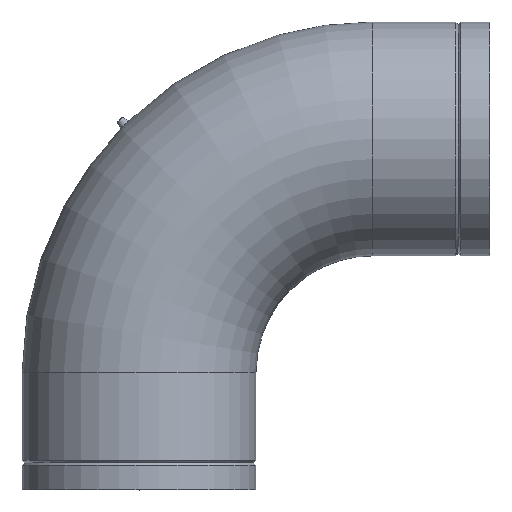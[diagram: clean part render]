
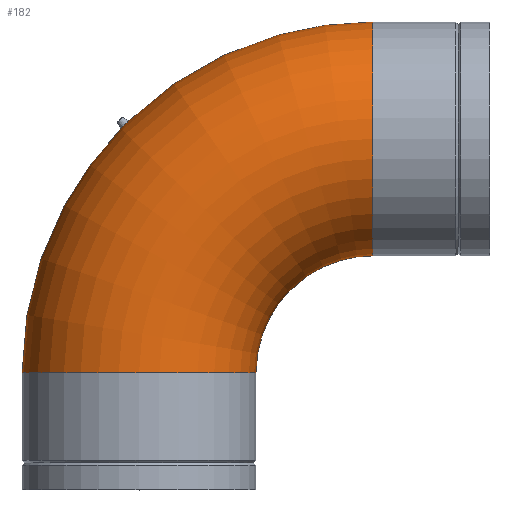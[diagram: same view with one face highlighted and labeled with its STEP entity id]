
A CAD part, top view. The second image highlights one B-rep face of the part: STEP entity #182.
In plain terms, the highlighted toroidal (fillet/blend) face has major radius 200 mm and minor radius 100 mm.
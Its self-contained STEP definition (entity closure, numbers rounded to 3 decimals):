
#14=TOROIDAL_SURFACE($,#212,200.,100.);
#18=B_SPLINE_CURVE_WITH_KNOTS($,3,(#314,#315,#316,#317,#318,#319,#320,#321,
#322,#323,#324,#325,#326,#327,#328,#329,#330,#331,#332,#333,#334,#335,#336,
#337,#338,#339,#340,#341,#342,#343,#344,#345,#346,#347,#348,#349,#350,#351,
#352,#353,#354,#355,#356,#357,#358,#359),.UNSPECIFIED.,.T.,.F.,(4,2,2,2,
2,2,2,2,2,2,2,2,2,2,2,2,2,2,2,2,2,2,4),(-3.009,-2.882,
-2.747,-2.584,-2.41,-2.321,
-2.255,-2.189,-2.098,-1.926,
-1.74,-1.549,-1.367,-1.195,
-1.035,-0.886,-0.803,-0.739,
-0.67,-0.568,-0.38,-0.192,
0.),.UNSPECIFIED.);
#33=FACE_BOUND($,#75,.T.);
#34=FACE_BOUND($,#76,.T.);
#52=FACE_OUTER_BOUND($,#74,.T.);
#74=EDGE_LOOP($,(#153));
#75=EDGE_LOOP($,(#154));
#76=EDGE_LOOP($,(#155));
#96=CIRCLE($,#205,100.);
#100=CIRCLE($,#213,100.);
#111=VERTEX_POINT($,#308);
#113=VERTEX_POINT($,#313);
#116=VERTEX_POINT($,#367);
#127=EDGE_CURVE($,#111,#111,#96,.T.);
#129=EDGE_CURVE($,#113,#113,#18,.T.);
#132=EDGE_CURVE($,#116,#116,#100,.T.);
#153=ORIENTED_EDGE($,*,*,#127,.F.);
#154=ORIENTED_EDGE($,*,*,#132,.T.);
#155=ORIENTED_EDGE($,*,*,#129,.T.);
#182=ADVANCED_FACE($,(#52,#33,#34),#14,.T.);
#205=AXIS2_PLACEMENT_3D($,#309,#251,#252);
#212=AXIS2_PLACEMENT_3D($,#366,#265,#266);
#213=AXIS2_PLACEMENT_3D($,#368,#267,#268);
#251=DIRECTION('center_axis',(0.,-1.,0.));
#252=DIRECTION('ref_axis',(1.,0.,0.));
#265=DIRECTION('center_axis',(0.,0.,-1.));
#266=DIRECTION('ref_axis',(-1.,0.,0.));
#267=DIRECTION('center_axis',(-1.,0.,0.));
#268=DIRECTION('ref_axis',(0.,-1.,0.));
#308=CARTESIAN_POINT('',(-100.,100.,0.));
#309=CARTESIAN_POINT('Origin',(0.,100.,0.));
#313=CARTESIAN_POINT('',(-8.734,315.477,0.));
#314=CARTESIAN_POINT('Ctrl Pts',(-8.734,315.477,0.));
#315=CARTESIAN_POINT('Ctrl Pts',(-8.734,315.477,0.424));
#316=CARTESIAN_POINT('Ctrl Pts',(-8.772,315.436,0.845));
#317=CARTESIAN_POINT('Ctrl Pts',(-8.929,315.269,1.691));
#318=CARTESIAN_POINT('Ctrl Pts',(-9.051,315.139,2.109));
#319=CARTESIAN_POINT('Ctrl Pts',(-9.407,314.763,2.96));
#320=CARTESIAN_POINT('Ctrl Pts',(-9.655,314.502,3.373));
#321=CARTESIAN_POINT('Ctrl Pts',(-10.258,313.874,4.083));
#322=CARTESIAN_POINT('Ctrl Pts',(-10.614,313.506,4.365));
#323=CARTESIAN_POINT('Ctrl Pts',(-11.196,312.913,4.64));
#324=CARTESIAN_POINT('Ctrl Pts',(-11.399,312.707,4.707));
#325=CARTESIAN_POINT('Ctrl Pts',(-11.759,312.344,4.776));
#326=CARTESIAN_POINT('Ctrl Pts',(-11.914,312.188,4.79));
#327=CARTESIAN_POINT('Ctrl Pts',(-12.226,311.876,4.787));
#328=CARTESIAN_POINT('Ctrl Pts',(-12.381,311.721,4.771));
#329=CARTESIAN_POINT('Ctrl Pts',(-12.748,311.358,4.695));
#330=CARTESIAN_POINT('Ctrl Pts',(-12.957,311.152,4.624));
#331=CARTESIAN_POINT('Ctrl Pts',(-13.548,310.574,4.336));
#332=CARTESIAN_POINT('Ctrl Pts',(-13.91,310.223,4.05));
#333=CARTESIAN_POINT('Ctrl Pts',(-14.572,309.588,3.285));
#334=CARTESIAN_POINT('Ctrl Pts',(-14.858,309.317,2.798));
#335=CARTESIAN_POINT('Ctrl Pts',(-15.286,308.913,1.689));
#336=CARTESIAN_POINT('Ctrl Pts',(-15.419,308.788,1.074));
#337=CARTESIAN_POINT('Ctrl Pts',(-15.503,308.709,-0.164));
#338=CARTESIAN_POINT('Ctrl Pts',(-15.459,308.75,-0.776));
#339=CARTESIAN_POINT('Ctrl Pts',(-15.216,308.979,-1.907));
#340=CARTESIAN_POINT('Ctrl Pts',(-15.028,309.156,-2.422));
#341=CARTESIAN_POINT('Ctrl Pts',(-14.548,309.612,-3.306));
#342=CARTESIAN_POINT('Ctrl Pts',(-14.266,309.881,-3.676));
#343=CARTESIAN_POINT('Ctrl Pts',(-13.651,310.475,-4.253));
#344=CARTESIAN_POINT('Ctrl Pts',(-13.325,310.791,-4.466));
#345=CARTESIAN_POINT('Ctrl Pts',(-12.795,311.311,-4.679));
#346=CARTESIAN_POINT('Ctrl Pts',(-12.604,311.501,-4.732));
#347=CARTESIAN_POINT('Ctrl Pts',(-12.258,311.844,-4.784));
#348=CARTESIAN_POINT('Ctrl Pts',(-12.105,311.997,-4.793));
#349=CARTESIAN_POINT('Ctrl Pts',(-11.79,312.312,-4.78));
#350=CARTESIAN_POINT('Ctrl Pts',(-11.628,312.475,-4.756));
#351=CARTESIAN_POINT('Ctrl Pts',(-11.234,312.874,-4.657));
#352=CARTESIAN_POINT('Ctrl Pts',(-11.005,313.107,-4.563));
#353=CARTESIAN_POINT('Ctrl Pts',(-10.382,313.746,-4.197));
#354=CARTESIAN_POINT('Ctrl Pts',(-10.016,314.125,-3.848));
#355=CARTESIAN_POINT('Ctrl Pts',(-9.402,314.768,-2.967));
#356=CARTESIAN_POINT('Ctrl Pts',(-9.159,315.025,-2.443));
#357=CARTESIAN_POINT('Ctrl Pts',(-8.822,315.383,-1.276));
#358=CARTESIAN_POINT('Ctrl Pts',(-8.734,315.477,-0.641));
#359=CARTESIAN_POINT('Ctrl Pts',(-8.734,315.477,0.));
#366=CARTESIAN_POINT('Origin',(200.,100.,0.));
#367=CARTESIAN_POINT('',(200.,400.,0.));
#368=CARTESIAN_POINT('Origin',(200.,300.,0.));
